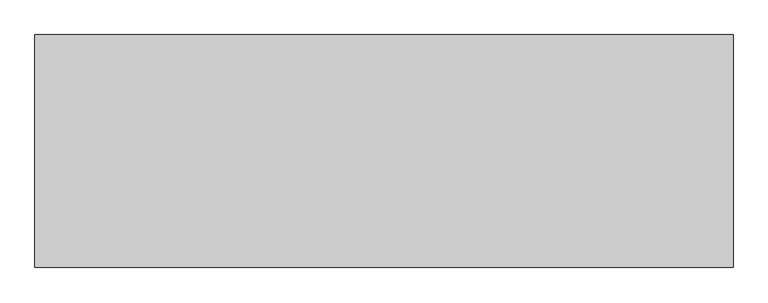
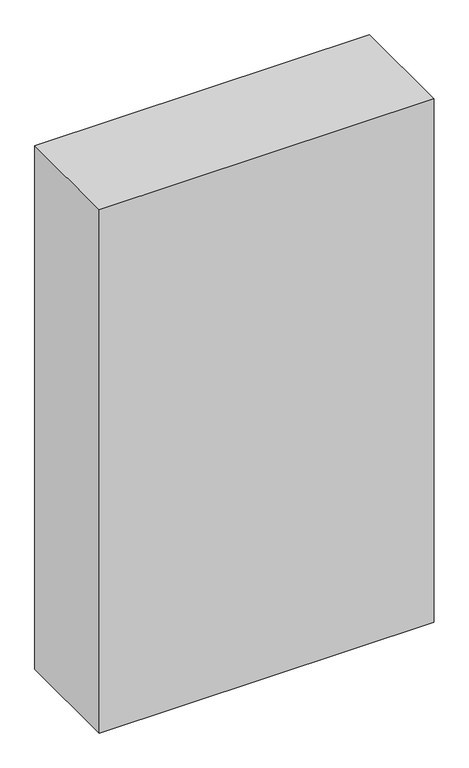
"""IFC4 building model written with IfcOpenShell, lengths in millimetres: proxy geometry."""

from ifc_helpers import new_model, si_unit, origin, origin_with_axes, place, context, project, spatial, polyline, outline, extrude, source, transform, mapped, element, save


def generic_models_d2bf7f5a(model_context):
    return source(origin(), model_context, "Body", "SweptSolid", [
        extrude(outline(polyline([(13698.8281099, -252.4), (12186.1305067, -252.4), (12186.1305067, 252.4), (13698.8281099, 252.4), (13698.8281099, -252.4)])), origin_with_axes(), (0.0, 0.0, 1.0), 2500.0),
    ])


if __name__ == "__main__":
    model = new_model("IFC4")
    model_context = context("Model", 3, world=origin())
    ifc_project = project(units=[si_unit("LENGTHUNIT", "METRE", prefix="MILLI")], contexts=[model_context])
    site = spatial("IfcSite", under=ifc_project)
    building = spatial("IfcBuilding", under=site)
    placement = place(None, origin())
    generic_models_shape = generic_models_d2bf7f5a(model_context)
    element("IfcBuildingElementProxy", 1, Name="Generic Models", at=placement, inside=building, context=model_context, shape_type="MappedRepresentation", body=[
        mapped(generic_models_shape, transform((0.0, 0.0, 0.0), x_axis=(1.0, 0.0, 0.0), y_axis=(0.0, 1.0, 0.0), z_axis=(0.0, 0.0, 1.0))),
    ])
    save(model, "model.ifc")
